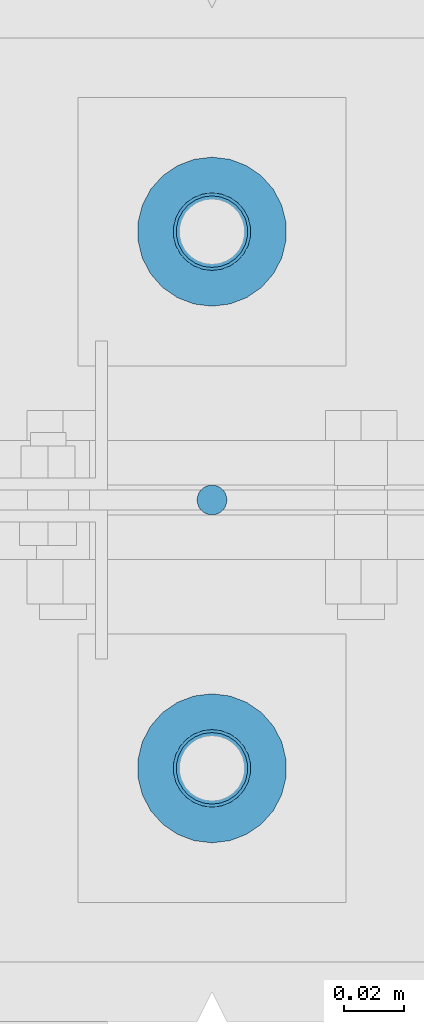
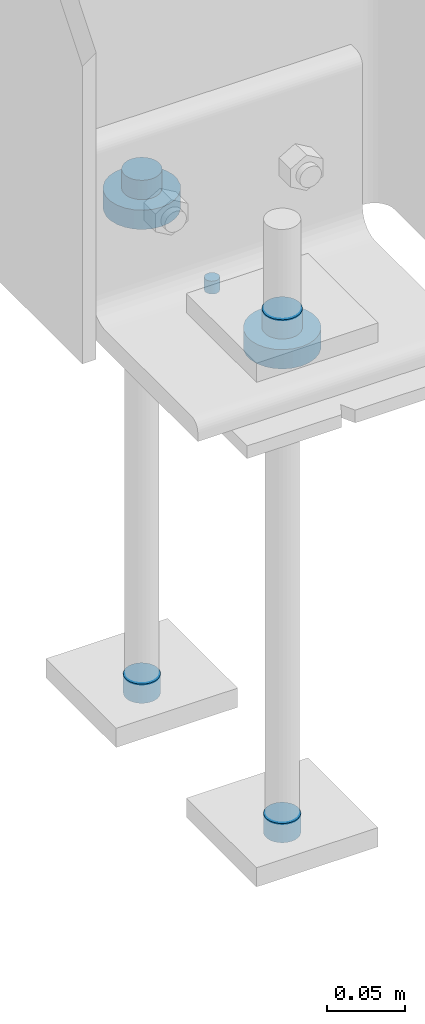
# One storey, part 101 of 123: 7 mechanical fasteners, 3 elements without a shape of their own.
"""IFC2X3 building model written with IfcOpenShell, lengths in millimetres."""

from ifc_helpers import new_model, si_unit, frame, origin_with_axes, origin_2d_with_axis, place, context, subcontext, project, spatial, circle, extrude, source, transform, mapped, material, type_object, element, aggregate, save


model = new_model("IFC2X3")

# Units and contexts
model_context = context("Model", 3, precision=1e-05, world=origin_with_axes())
body_context = subcontext(model_context, "Body", "Model", "MODEL_VIEW")
ifc_project = project(units=[si_unit("LENGTHUNIT", "METRE", prefix="MILLI"), si_unit("AREAUNIT", "SQUARE_METRE"), si_unit("VOLUMEUNIT", "CUBIC_METRE"), si_unit("MASSUNIT", "GRAM", prefix="KILO"), si_unit("TIMEUNIT", "SECOND"), si_unit("PLANEANGLEUNIT", "RADIAN"), si_unit("SOLIDANGLEUNIT", "STERADIAN"), si_unit("THERMODYNAMICTEMPERATUREUNIT", "DEGREE_CELSIUS"), si_unit("LUMINOUSINTENSITYUNIT", "LUMEN")], contexts=[model_context])

# Site, building, storey
site_placement = place(None, origin_with_axes())
site = spatial("IfcSite", under=ifc_project, at=site_placement, Name="Undefined", CompositionType="ELEMENT")
building_placement = place(site_placement, origin_with_axes())
building = spatial("IfcBuilding", under=site, at=building_placement, Name="Undefined", CompositionType="ELEMENT")
storey_placement = place(building_placement, origin_with_axes())
storey = spatial("IfcBuildingStorey", under=building, at=storey_placement, Name="Undefined", CompositionType="ELEMENT", Elevation=0.0)

# Assembly, mechanical fasteners
assembly_1_placement = place(storey_placement, origin_with_axes())
assembly_1 = element("IfcElementAssembly", 1, at=assembly_1_placement, inside=storey, Name="Steel Assembly", AssemblyPlace="NOTDEFINED", PredefinedType="RIGID_FRAME")
ifc_material = material(Name="6.8")
discrete_accessory_type = type_object("IfcDiscreteAccessoryType", Name="Bolt assembly")
shared_shape_1 = source(origin_with_axes(), body_context, "Body", "SweptSolid", [
    extrude(circle(Radius=13.0, at=origin_2d_with_axis()), frame((0.0, -15.0, 0.0), z_axis=(0.0, 1.0, 0.0), x_axis=(1.0, 0.0, 0.0)), (0.0, 0.0, 1.0), 15.1),
])
mechanical_fastener_1_placement = place(assembly_1_placement, frame((-45.0, 11309.9971504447, -235.0), z_axis=(1.0, 0.0, 0.0), x_axis=(0.0, -1.0, 0.0)))
mechanical_fastener_1 = element("IfcMechanicalFastener", 2, at=mechanical_fastener_1_placement, type_object=discrete_accessory_type, material=ifc_material, Name="Bolt assembly", NominalDiameter=24.0, NominalLength=15.0, context=body_context, shape_type="MappedRepresentation", body=[
    mapped(shared_shape_1, transform((0.0, 0.0, 0.0))),
])
mechanical_fastener_2_placement = place(assembly_1_placement, frame((-45.0, 11489.9971504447, -235.0), z_axis=(1.0, 0.0, 0.0), x_axis=(0.0, -1.0, 0.0)))
mechanical_fastener_2 = element("IfcMechanicalFastener", 3, at=mechanical_fastener_2_placement, type_object=discrete_accessory_type, material=ifc_material, Name="Bolt assembly", NominalDiameter=24.0, NominalLength=15.0, context=body_context, shape_type="MappedRepresentation", body=[
    mapped(shared_shape_1, transform((0.0, 0.0, 0.0))),
])
shared_shape_2 = source(origin_with_axes(), body_context, "Body", "SweptSolid", [
    extrude(circle(Radius=12.0, at=origin_2d_with_axis()), frame((0.0, -15.0, 0.0), z_axis=(0.0, 1.0, 0.0), x_axis=(1.0, 0.0, 0.0)), (0.0, 0.0, 1.0), 15.1),
])
mechanical_fastener_3_placement = place(assembly_1_placement, frame((-45.0, 11309.9971504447, -630.0), z_axis=(1.0, 0.0, 0.0), x_axis=(0.0, -1.0, 0.0)))
mechanical_fastener_3 = element("IfcMechanicalFastener", 4, at=mechanical_fastener_3_placement, type_object=discrete_accessory_type, material=ifc_material, Name="Bolt assembly", NominalDiameter=22.0, NominalLength=15.0, context=body_context, shape_type="MappedRepresentation", body=[
    mapped(shared_shape_2, transform((0.0, 0.0, 0.0))),
])
mechanical_fastener_4_placement = place(assembly_1_placement, frame((-45.0, 11489.9971504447, -630.0), z_axis=(1.0, 0.0, 0.0), x_axis=(0.0, -1.0, 0.0)))
mechanical_fastener_4 = element("IfcMechanicalFastener", 5, at=mechanical_fastener_4_placement, type_object=discrete_accessory_type, material=ifc_material, Name="Bolt assembly", NominalDiameter=22.0, NominalLength=15.0, context=body_context, shape_type="MappedRepresentation", body=[
    mapped(shared_shape_2, transform((0.0, 0.0, 0.0))),
])
shared_shape_3 = source(origin_with_axes(), body_context, "Body", "SweptSolid", [
    extrude(circle(Radius=5.0, at=origin_2d_with_axis()), frame((0.0, 0.0, 0.0), z_axis=(0.0, 1.0, 0.0), x_axis=(1.0, 0.0, 0.0)), (0.0, 0.0, 1.0), 10.1),
])
mechanical_fastener_5_placement = place(assembly_1_placement, frame((-45.0, 11400.0000000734, -250.0), z_axis=(0.0, 1.0, 0.0), x_axis=(1.0, 0.0, 0.0)))
mechanical_fastener_5 = element("IfcMechanicalFastener", 6, at=mechanical_fastener_5_placement, type_object=discrete_accessory_type, material=ifc_material, Name="Bolt assembly", NominalDiameter=8.0, NominalLength=10.0, context=body_context, shape_type="MappedRepresentation", body=[
    mapped(shared_shape_3, transform((0.0, 0.0, 0.0))),
])
aggregate(assembly_1, [mechanical_fastener_1, mechanical_fastener_2, mechanical_fastener_3, mechanical_fastener_4, mechanical_fastener_5])

# Assembly, mechanical fastener
assembly_2_placement = place(storey_placement, origin_with_axes())
assembly_2 = element("IfcElementAssembly", 7, at=assembly_2_placement, inside=storey, Name="Steel Assembly", AssemblyPlace="NOTDEFINED", PredefinedType="RIGID_FRAME")
shared_shape_4 = source(origin_with_axes(), body_context, "Body", "SweptSolid", [
    extrude(circle(Radius=25.0, at=origin_2d_with_axis()), frame((0.0, -15.0, 0.0), z_axis=(0.0, 1.0, 0.0), x_axis=(1.0, 0.0, 0.0)), (0.0, 0.0, 1.0), 15.1),
])
mechanical_fastener_6_placement = place(assembly_2_placement, frame((-45.0, 11310.0, -250.0), z_axis=(-1.0, 0.0, 0.0), x_axis=(0.0, 1.0, 0.0)))
mechanical_fastener_6 = element("IfcMechanicalFastener", 8, at=mechanical_fastener_6_placement, type_object=discrete_accessory_type, material=ifc_material, Name="Bolt assembly", NominalDiameter=30.0, NominalLength=15.0, context=body_context, shape_type="MappedRepresentation", body=[
    mapped(shared_shape_4, transform((0.0, 0.0, 0.0))),
])
aggregate(assembly_2, [mechanical_fastener_6])

assembly_3_placement = place(storey_placement, origin_with_axes())
assembly_3 = element("IfcElementAssembly", 9, at=assembly_3_placement, inside=storey, Name="Steel Assembly", AssemblyPlace="NOTDEFINED", PredefinedType="RIGID_FRAME")
mechanical_fastener_7_placement = place(assembly_3_placement, frame((-45.0, 11490.0, -250.0), z_axis=(1.0, 0.0, 0.0), x_axis=(0.0, -1.0, 0.0)))
mechanical_fastener_7 = element("IfcMechanicalFastener", 10, at=mechanical_fastener_7_placement, type_object=discrete_accessory_type, material=ifc_material, Name="Bolt assembly", NominalDiameter=30.0, NominalLength=15.0, context=body_context, shape_type="MappedRepresentation", body=[
    mapped(shared_shape_4, transform((0.0, 0.0, 0.0))),
])
aggregate(assembly_3, [mechanical_fastener_7])

save(model, "model.ifc")
